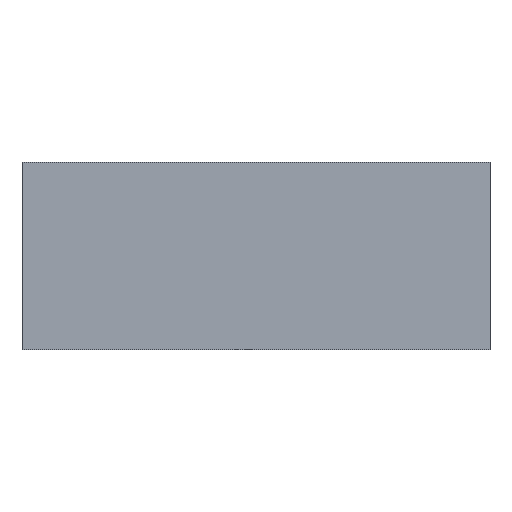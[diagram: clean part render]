
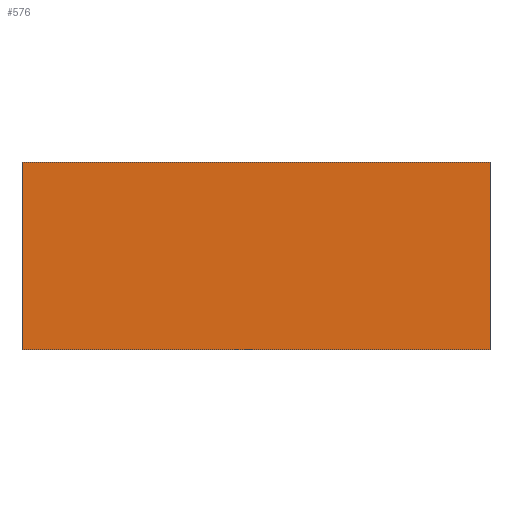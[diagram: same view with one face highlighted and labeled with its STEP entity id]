
A CAD part, front view. The second image highlights one B-rep face of the part: STEP entity #576.
In plain terms, the highlighted planar face has unit normal (0, -1, 0).
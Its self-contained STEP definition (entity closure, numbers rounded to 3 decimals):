
#16 = EDGE_CURVE ( 'NONE', #855, #1043, #1255, .T. ) ;
#87 = CARTESIAN_POINT ( 'NONE',  ( 31., -33.244, 0. ) ) ;
#180 = CARTESIAN_POINT ( 'NONE',  ( 31., -33.244, 0. ) ) ;
#185 = FACE_OUTER_BOUND ( 'NONE', #239, .T. ) ;
#186 = LINE ( 'NONE', #281, #1222 ) ;
#239 = EDGE_LOOP ( 'NONE', ( #772, #1262, #1023, #421 ) ) ;
#281 = CARTESIAN_POINT ( 'NONE',  ( 28., -33.244, -1.2 ) ) ;
#330 = EDGE_CURVE ( 'NONE', #530, #654, #768, .T. ) ;
#355 = EDGE_CURVE ( 'NONE', #1043, #654, #186, .T. ) ;
#401 = PLANE ( 'NONE',  #666 ) ;
#413 = LINE ( 'NONE', #724, #779 ) ;
#421 = ORIENTED_EDGE ( 'NONE', *, *, #16, .T. ) ;
#462 = CARTESIAN_POINT ( 'NONE',  ( 28., -33.244, 0. ) ) ;
#530 = VERTEX_POINT ( 'NONE', #180 ) ;
#576 = ADVANCED_FACE ( 'NONE', ( #185 ), #401, .F. ) ;
#581 = DIRECTION ( 'NONE',  ( 0., 1., 0. ) ) ;
#585 = VECTOR ( 'NONE', #1158, 1000. ) ;
#628 = VECTOR ( 'NONE', #1157, 1000. ) ;
#654 = VERTEX_POINT ( 'NONE', #1086 ) ;
#666 = AXIS2_PLACEMENT_3D ( 'NONE', #874, #581, #808 ) ;
#724 = CARTESIAN_POINT ( 'NONE',  ( 28., -33.244, 0. ) ) ;
#749 = CARTESIAN_POINT ( 'NONE',  ( 28., -33.244, -1.2 ) ) ;
#768 = LINE ( 'NONE', #87, #628 ) ;
#772 = ORIENTED_EDGE ( 'NONE', *, *, #355, .T. ) ;
#779 = VECTOR ( 'NONE', #1201, 1000. ) ;
#801 = CARTESIAN_POINT ( 'NONE',  ( 28., -33.244, 0. ) ) ;
#808 = DIRECTION ( 'NONE',  ( 0., 0., 1. ) ) ;
#855 = VERTEX_POINT ( 'NONE', #801 ) ;
#856 = EDGE_CURVE ( 'NONE', #855, #530, #413, .T. ) ;
#874 = CARTESIAN_POINT ( 'NONE',  ( 28., -33.244, 0. ) ) ;
#1023 = ORIENTED_EDGE ( 'NONE', *, *, #856, .F. ) ;
#1043 = VERTEX_POINT ( 'NONE', #749 ) ;
#1086 = CARTESIAN_POINT ( 'NONE',  ( 31., -33.244, -1.2 ) ) ;
#1157 = DIRECTION ( 'NONE',  ( 0., 0., -1. ) ) ;
#1158 = DIRECTION ( 'NONE',  ( 0., 0., -1. ) ) ;
#1172 = DIRECTION ( 'NONE',  ( 1., 0., 0. ) ) ;
#1201 = DIRECTION ( 'NONE',  ( 1., 0., 0. ) ) ;
#1222 = VECTOR ( 'NONE', #1172, 1000. ) ;
#1255 = LINE ( 'NONE', #462, #585 ) ;
#1262 = ORIENTED_EDGE ( 'NONE', *, *, #330, .F. ) ;
